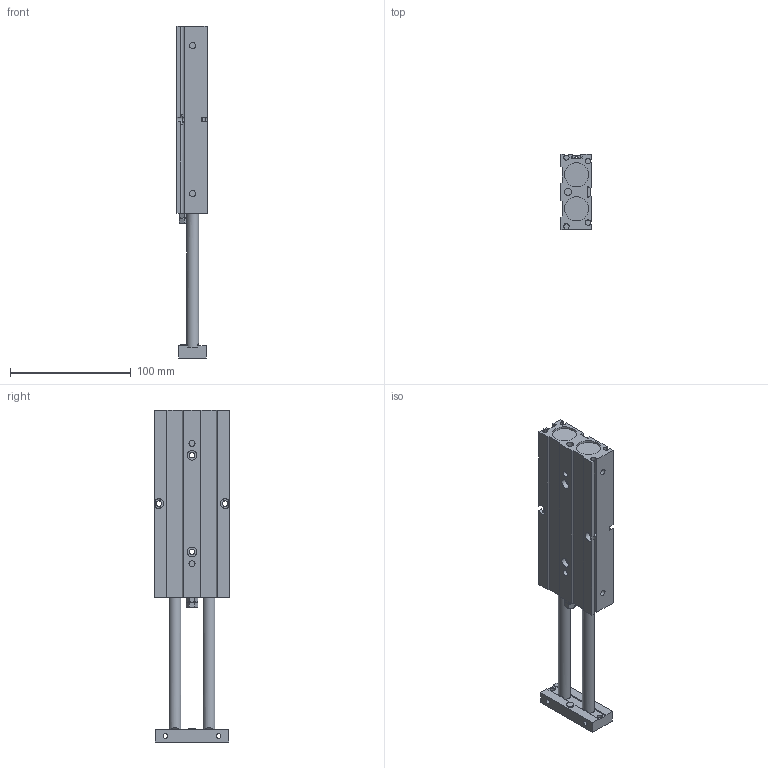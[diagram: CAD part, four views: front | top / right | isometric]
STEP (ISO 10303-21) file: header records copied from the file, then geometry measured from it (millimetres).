
FILE_DESCRIPTION((''),'2;1');
FILE_NAME('I:\3D電子目錄\氣缸\TD\TD20\TD20\TD20x100.stp','2007-08-06T09:47:31',('Administrator'),(''),'Autodesk Inventor 2008','Autodesk Inventor 2008','');
FILE_SCHEMA(('AUTOMOTIVE_DESIGN { 1 0 10303 214 1 1 1 1 }'));
Length unit declared in the file: millimetre
Products named in the file (1): TD20X100
Bounding box: 25 x 62 x 275 mm (x, y, z)
Volume: 242791.4 mm3; surface area: 54171.2 mm2
Topology: 1 solids, 3 shells, 197 faces, 503 edges, 329 vertices
Faces by surface type: plane 136, cylinder 48, cone 7, bspline 4, torus 2
Full cylindrical faces by diameter (mm): 4 x4, 4.5 x4, 5 x4, 6 x2, 7 x2, 8 x6, 9 x2, 10 x2, 20 x4
Entity records: 6108 total; most frequent: CARTESIAN_POINT 1453, DIRECTION 927, ORIENTED_EDGE 916, EDGE_CURVE 458, VERTEX_POINT 323, AXIS2_PLACEMENT_3D 310, VECTOR 307, LINE 307
